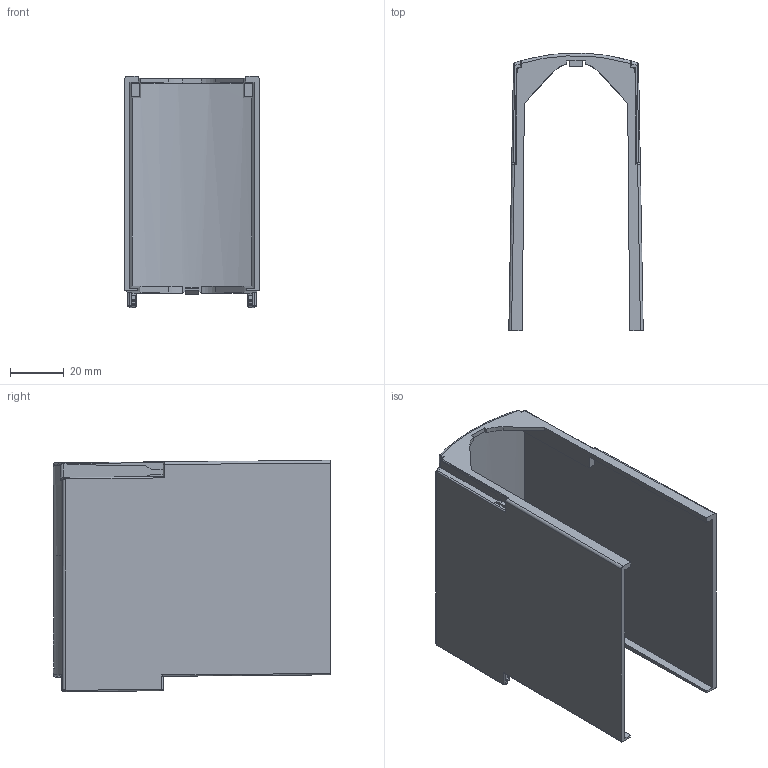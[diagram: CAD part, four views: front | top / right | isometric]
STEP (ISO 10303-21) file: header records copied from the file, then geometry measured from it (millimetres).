
FILE_DESCRIPTION (( 'STEP AP203' ), '1' );
FILE_NAME ('KRYT_PRIDAVNY_80_mm.STEP', '2021-08-25T06:21:16', ( '' ), ( '' ), 'SwSTEP 2.0', 'SolidWorks 2015', '' );
FILE_SCHEMA (( 'CONFIG_CONTROL_DESIGN' ));
Length unit declared in the file: millimetre
Products named in the file (1): KRYT_PRIDAVNY_80_mm
Bounding box: 50.13 x 103.5 x 86.27 mm (x, y, z)
Volume: 33169 mm3; surface area: 44748 mm2
Topology: 1 solids, 1 shells, 200 faces, 550 edges, 348 vertices
Faces by surface type: plane 113, cylinder 56, bspline 27, sphere 3, cone 1
Entity records: 6826 total; most frequent: CARTESIAN_POINT 2142, ORIENTED_EDGE 1084, DIRECTION 813, EDGE_CURVE 542, VERTEX_POINT 348, LINE 343, VECTOR 343, AXIS2_PLACEMENT_3D 235
